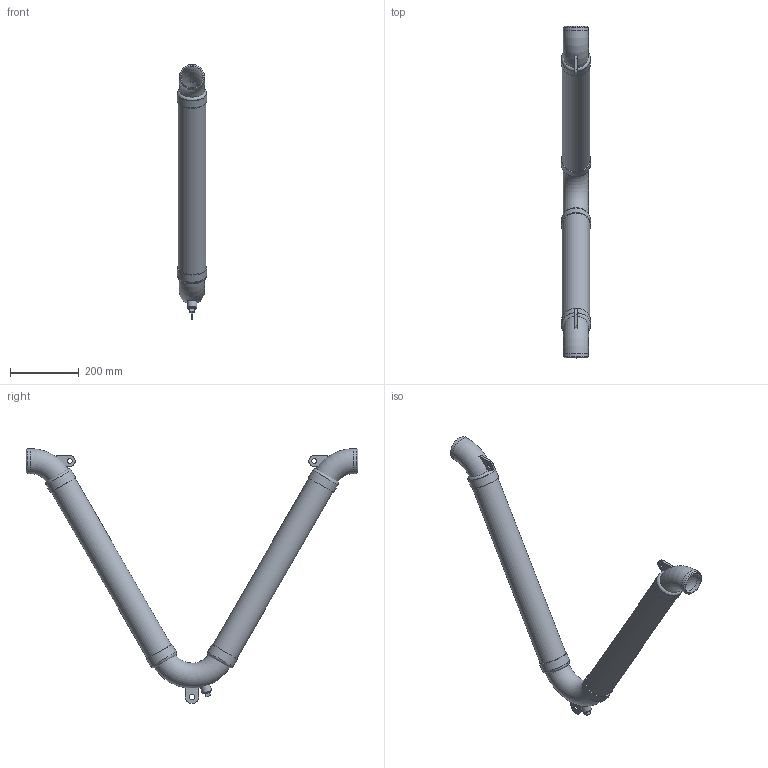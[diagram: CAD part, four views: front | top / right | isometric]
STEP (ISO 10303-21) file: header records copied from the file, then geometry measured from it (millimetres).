
FILE_DESCRIPTION(/* description */ (''),/* implementation_level */ '2;1');
FILE_NAME(/* name */ '\\Mleuckthor2\cad-proe_solids\WEBSITE FILES 05.22.13\STEP\CSAVWN\CSAVWN-2.5x38.stp',/* time_stamp */ '2016-06-07T18:38:57-04:00',/* author */ ('rramoutar'),/* organization */ ('Mason Industries Inc.'),/* preprocessor_version */ 'ST-DEVELOPER v15.6',/* originating_system */ 'Autodesk Inventor 2015',/* authorisation */ '');
FILE_SCHEMA (('CONFIG_CONTROL_DESIGN'));
Length unit declared in the file: inch
Products named in the file (1): CSAVWN-2.5x38
Bounding box: 85.64 x 965.2 x 741.36 mm (x, y, z)
Volume: 727068.9 mm3; surface area: 901762.3 mm2
Topology: 16 solids, 16 shells, 97 faces, 195 edges, 129 vertices
Faces by surface type: plane 50, cylinder 33, torus 10, cone 4
Full cylindrical faces by diameter (mm): 14.287 x2, 15.875 x1, 18.256 x1, 21.336 x2, 28.575 x2, 62.713 x2, 69.85 x4, 73.025 x2, 79.756 x2, 80.569 x6, 85.331 x4
Entity records: 2481 total; most frequent: CARTESIAN_POINT 464, DIRECTION 406, ORIENTED_EDGE 274, AXIS2_PLACEMENT_3D 181, EDGE_LOOP 172, EDGE_CURVE 137, VERTEX_POINT 115, STYLED_ITEM 106
